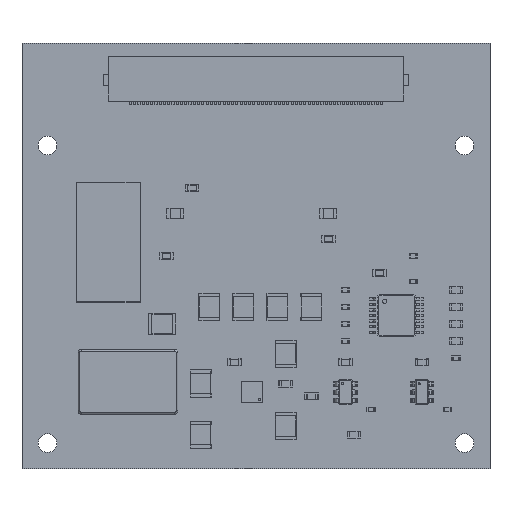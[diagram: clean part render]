
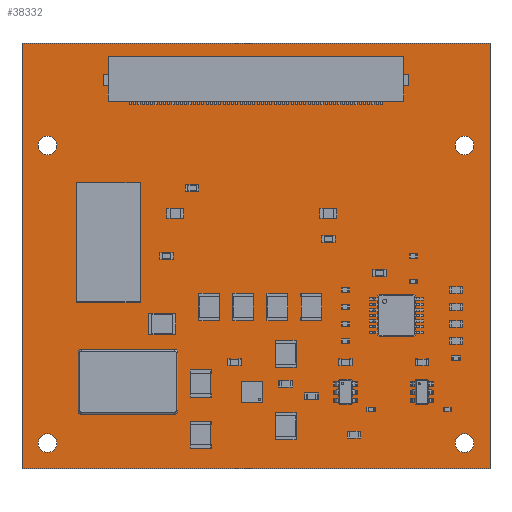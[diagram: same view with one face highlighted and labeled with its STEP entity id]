
A CAD part, top view. The second image highlights one B-rep face of the part: STEP entity #38332.
In plain terms, the highlighted planar face has unit normal (0, 0, 1).
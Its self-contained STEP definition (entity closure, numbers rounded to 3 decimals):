
#38110 = VERTEX_POINT('',#38111);
#38111 = CARTESIAN_POINT('',(55.,-15.,1.55));
#38117 = EDGE_CURVE('',#38110,#38118,#38120,.T.);
#38118 = VERTEX_POINT('',#38119);
#38119 = CARTESIAN_POINT('',(0.,-15.,1.55));
#38120 = LINE('',#38121,#38122);
#38121 = CARTESIAN_POINT('',(55.,-15.,1.55));
#38122 = VECTOR('',#38123,1.);
#38123 = DIRECTION('',(-1.,0.,0.));
#38150 = VERTEX_POINT('',#38151);
#38151 = CARTESIAN_POINT('',(55.,35.,1.55));
#38157 = EDGE_CURVE('',#38150,#38110,#38158,.T.);
#38158 = LINE('',#38159,#38160);
#38159 = CARTESIAN_POINT('',(55.,35.,1.55));
#38160 = VECTOR('',#38161,1.);
#38161 = DIRECTION('',(0.,-1.,0.));
#38179 = EDGE_CURVE('',#38118,#38180,#38182,.T.);
#38180 = VERTEX_POINT('',#38181);
#38181 = CARTESIAN_POINT('',(0.,35.,1.55));
#38182 = LINE('',#38183,#38184);
#38183 = CARTESIAN_POINT('',(0.,-15.,1.55));
#38184 = VECTOR('',#38185,1.);
#38185 = DIRECTION('',(0.,1.,0.));
#38332 = ADVANCED_FACE('',(#38333,#38344,#38355,#38366,#38377,#38388,
    #38399,#38410,#38421,#38432,#38443),#38454,.T.);
#38333 = FACE_BOUND('',#38334,.T.);
#38334 = EDGE_LOOP('',(#38335,#38336,#38337,#38343));
#38335 = ORIENTED_EDGE('',*,*,#38117,.F.);
#38336 = ORIENTED_EDGE('',*,*,#38157,.F.);
#38337 = ORIENTED_EDGE('',*,*,#38338,.F.);
#38338 = EDGE_CURVE('',#38180,#38150,#38339,.T.);
#38339 = LINE('',#38340,#38341);
#38340 = CARTESIAN_POINT('',(0.,35.,1.55));
#38341 = VECTOR('',#38342,1.);
#38342 = DIRECTION('',(1.,0.,0.));
#38343 = ORIENTED_EDGE('',*,*,#38179,.F.);
#38344 = FACE_BOUND('',#38345,.T.);
#38345 = EDGE_LOOP('',(#38346));
#38346 = ORIENTED_EDGE('',*,*,#38347,.T.);
#38347 = EDGE_CURVE('',#38348,#38348,#38350,.T.);
#38348 = VERTEX_POINT('',#38349);
#38349 = CARTESIAN_POINT('',(3.,-13.1,1.55));
#38350 = CIRCLE('',#38351,1.1);
#38351 = AXIS2_PLACEMENT_3D('',#38352,#38353,#38354);
#38352 = CARTESIAN_POINT('',(3.,-12.,1.55));
#38353 = DIRECTION('',(-0.,0.,-1.));
#38354 = DIRECTION('',(-0.,-1.,0.));
#38355 = FACE_BOUND('',#38356,.T.);
#38356 = EDGE_LOOP('',(#38357));
#38357 = ORIENTED_EDGE('',*,*,#38358,.T.);
#38358 = EDGE_CURVE('',#38359,#38359,#38361,.T.);
#38359 = VERTEX_POINT('',#38360);
#38360 = CARTESIAN_POINT('',(9.92,-3.5,1.55));
#38361 = CIRCLE('',#38362,0.5);
#38362 = AXIS2_PLACEMENT_3D('',#38363,#38364,#38365);
#38363 = CARTESIAN_POINT('',(9.92,-3.,1.55));
#38364 = DIRECTION('',(-0.,0.,-1.));
#38365 = DIRECTION('',(-0.,-1.,0.));
#38366 = FACE_BOUND('',#38367,.T.);
#38367 = EDGE_LOOP('',(#38368));
#38368 = ORIENTED_EDGE('',*,*,#38369,.T.);
#38369 = EDGE_CURVE('',#38370,#38370,#38372,.T.);
#38370 = VERTEX_POINT('',#38371);
#38371 = CARTESIAN_POINT('',(12.46,-3.5,1.55));
#38372 = CIRCLE('',#38373,0.5);
#38373 = AXIS2_PLACEMENT_3D('',#38374,#38375,#38376);
#38374 = CARTESIAN_POINT('',(12.46,-3.,1.55));
#38375 = DIRECTION('',(-0.,0.,-1.));
#38376 = DIRECTION('',(-0.,-1.,0.));
#38377 = FACE_BOUND('',#38378,.T.);
#38378 = EDGE_LOOP('',(#38379));
#38379 = ORIENTED_EDGE('',*,*,#38380,.T.);
#38380 = EDGE_CURVE('',#38381,#38381,#38383,.T.);
#38381 = VERTEX_POINT('',#38382);
#38382 = CARTESIAN_POINT('',(15.,-3.5,1.55));
#38383 = CIRCLE('',#38384,0.5);
#38384 = AXIS2_PLACEMENT_3D('',#38385,#38386,#38387);
#38385 = CARTESIAN_POINT('',(15.,-3.,1.55));
#38386 = DIRECTION('',(-0.,0.,-1.));
#38387 = DIRECTION('',(-0.,-1.,0.));
#38388 = FACE_BOUND('',#38389,.T.);
#38389 = EDGE_LOOP('',(#38390));
#38390 = ORIENTED_EDGE('',*,*,#38391,.T.);
#38391 = EDGE_CURVE('',#38392,#38392,#38394,.T.);
#38392 = VERTEX_POINT('',#38393);
#38393 = CARTESIAN_POINT('',(52.,-13.1,1.55));
#38394 = CIRCLE('',#38395,1.1);
#38395 = AXIS2_PLACEMENT_3D('',#38396,#38397,#38398);
#38396 = CARTESIAN_POINT('',(52.,-12.,1.55));
#38397 = DIRECTION('',(-0.,0.,-1.));
#38398 = DIRECTION('',(-0.,-1.,0.));
#38399 = FACE_BOUND('',#38400,.T.);
#38400 = EDGE_LOOP('',(#38401));
#38401 = ORIENTED_EDGE('',*,*,#38402,.T.);
#38402 = EDGE_CURVE('',#38403,#38403,#38405,.T.);
#38403 = VERTEX_POINT('',#38404);
#38404 = CARTESIAN_POINT('',(10.,8.45,1.55));
#38405 = CIRCLE('',#38406,0.55);
#38406 = AXIS2_PLACEMENT_3D('',#38407,#38408,#38409);
#38407 = CARTESIAN_POINT('',(10.,9.,1.55));
#38408 = DIRECTION('',(-0.,0.,-1.));
#38409 = DIRECTION('',(-0.,-1.,0.));
#38410 = FACE_BOUND('',#38411,.T.);
#38411 = EDGE_LOOP('',(#38412));
#38412 = ORIENTED_EDGE('',*,*,#38413,.T.);
#38413 = EDGE_CURVE('',#38414,#38414,#38416,.T.);
#38414 = VERTEX_POINT('',#38415);
#38415 = CARTESIAN_POINT('',(10.,10.99,1.55));
#38416 = CIRCLE('',#38417,0.55);
#38417 = AXIS2_PLACEMENT_3D('',#38418,#38419,#38420);
#38418 = CARTESIAN_POINT('',(10.,11.54,1.55));
#38419 = DIRECTION('',(-0.,0.,-1.));
#38420 = DIRECTION('',(-0.,-1.,0.));
#38421 = FACE_BOUND('',#38422,.T.);
#38422 = EDGE_LOOP('',(#38423));
#38423 = ORIENTED_EDGE('',*,*,#38424,.T.);
#38424 = EDGE_CURVE('',#38425,#38425,#38427,.T.);
#38425 = VERTEX_POINT('',#38426);
#38426 = CARTESIAN_POINT('',(10.,13.53,1.55));
#38427 = CIRCLE('',#38428,0.55);
#38428 = AXIS2_PLACEMENT_3D('',#38429,#38430,#38431);
#38429 = CARTESIAN_POINT('',(10.,14.08,1.55));
#38430 = DIRECTION('',(-0.,0.,-1.));
#38431 = DIRECTION('',(-0.,-1.,0.));
#38432 = FACE_BOUND('',#38433,.T.);
#38433 = EDGE_LOOP('',(#38434));
#38434 = ORIENTED_EDGE('',*,*,#38435,.T.);
#38435 = EDGE_CURVE('',#38436,#38436,#38438,.T.);
#38436 = VERTEX_POINT('',#38437);
#38437 = CARTESIAN_POINT('',(3.,21.9,1.55));
#38438 = CIRCLE('',#38439,1.1);
#38439 = AXIS2_PLACEMENT_3D('',#38440,#38441,#38442);
#38440 = CARTESIAN_POINT('',(3.,23.,1.55));
#38441 = DIRECTION('',(-0.,0.,-1.));
#38442 = DIRECTION('',(-0.,-1.,0.));
#38443 = FACE_BOUND('',#38444,.T.);
#38444 = EDGE_LOOP('',(#38445));
#38445 = ORIENTED_EDGE('',*,*,#38446,.T.);
#38446 = EDGE_CURVE('',#38447,#38447,#38449,.T.);
#38447 = VERTEX_POINT('',#38448);
#38448 = CARTESIAN_POINT('',(52.,21.9,1.55));
#38449 = CIRCLE('',#38450,1.1);
#38450 = AXIS2_PLACEMENT_3D('',#38451,#38452,#38453);
#38451 = CARTESIAN_POINT('',(52.,23.,1.55));
#38452 = DIRECTION('',(-0.,0.,-1.));
#38453 = DIRECTION('',(-0.,-1.,0.));
#38454 = PLANE('',#38455);
#38455 = AXIS2_PLACEMENT_3D('',#38456,#38457,#38458);
#38456 = CARTESIAN_POINT('',(0.,0.,1.55));
#38457 = DIRECTION('',(0.,0.,1.));
#38458 = DIRECTION('',(1.,0.,-0.));
